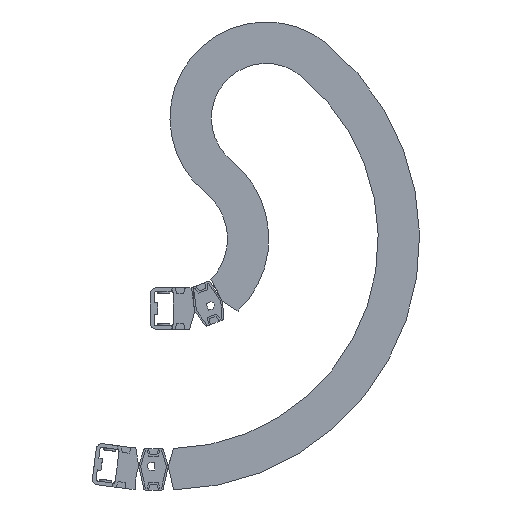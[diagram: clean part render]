
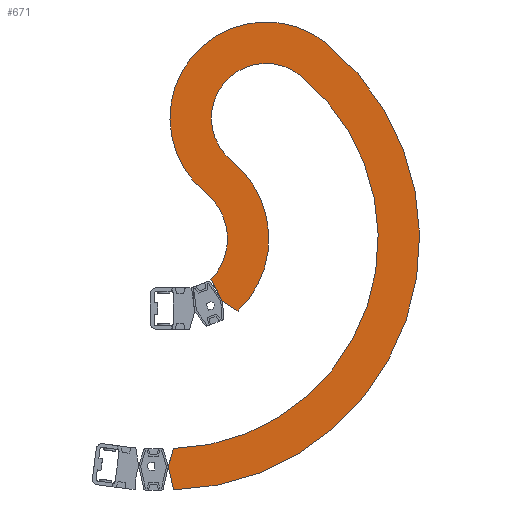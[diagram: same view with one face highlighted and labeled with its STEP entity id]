
A CAD part, front view. The second image highlights one B-rep face of the part: STEP entity #671.
In plain terms, the highlighted planar face has unit normal (0, -1, 0).
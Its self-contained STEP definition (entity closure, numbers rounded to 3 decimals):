
#671 = ADVANCED_FACE( '', ( #1478 ), #1479, .F. );
#1478 = FACE_OUTER_BOUND( '', #2448, .T. );
#1479 = PLANE( '', #2449 );
#2448 = EDGE_LOOP( '', ( #4296, #4297, #4298, #4299, #4300, #4301, #4302, #4303, #4304, #4305 ) );
#2449 = AXIS2_PLACEMENT_3D( '', #4306, #4307, #4308 );
#4296 = ORIENTED_EDGE( '', *, *, #6743, .F. );
#4297 = ORIENTED_EDGE( '', *, *, #6684, .F. );
#4298 = ORIENTED_EDGE( '', *, *, #6744, .F. );
#4299 = ORIENTED_EDGE( '', *, *, #6745, .T. );
#4300 = ORIENTED_EDGE( '', *, *, #6746, .F. );
#4301 = ORIENTED_EDGE( '', *, *, #6747, .F. );
#4302 = ORIENTED_EDGE( '', *, *, #6462, .F. );
#4303 = ORIENTED_EDGE( '', *, *, #6748, .T. );
#4304 = ORIENTED_EDGE( '', *, *, #6749, .T. );
#4305 = ORIENTED_EDGE( '', *, *, #6638, .F. );
#4306 = CARTESIAN_POINT( '', ( 0., -25.5, 0. ) );
#4307 = DIRECTION( '', ( 0., 1., 0. ) );
#4308 = DIRECTION( '', ( 0., 0., 1. ) );
#6462 = EDGE_CURVE( '', #7973, #7974, #7975, .T. );
#6638 = EDGE_CURVE( '', #8248, #8250, #8251, .T. );
#6684 = EDGE_CURVE( '', #8318, #8319, #8320, .T. );
#6743 = EDGE_CURVE( '', #8319, #8248, #8405, .T. );
#6744 = EDGE_CURVE( '', #8406, #8318, #8407, .T. );
#6745 = EDGE_CURVE( '', #8406, #8408, #8409, .T. );
#6746 = EDGE_CURVE( '', #8410, #8408, #8411, .T. );
#6747 = EDGE_CURVE( '', #7974, #8410, #8412, .T. );
#6748 = EDGE_CURVE( '', #7973, #8413, #8414, .T. );
#6749 = EDGE_CURVE( '', #8413, #8250, #8415, .T. );
#7973 = VERTEX_POINT( '', #10060 );
#7974 = VERTEX_POINT( '', #10061 );
#7975 = CIRCLE( '', #10062, 68. );
#8248 = VERTEX_POINT( '', #10450 );
#8250 = VERTEX_POINT( '', #10453 );
#8251 = LINE( '', #10454, #10455 );
#8318 = VERTEX_POINT( '', #10553 );
#8319 = VERTEX_POINT( '', #10554 );
#8320 = CIRCLE( '', #10555, 170. );
#8405 = LINE( '', #10676, #10677 );
#8406 = VERTEX_POINT( '', #10678 );
#8407 = CIRCLE( '', #10679, 65. );
#8408 = VERTEX_POINT( '', #10680 );
#8409 = CIRCLE( '', #10681, 40. );
#8410 = VERTEX_POINT( '', #10682 );
#8411 = LINE( '', #10683, #10684 );
#8412 = LINE( '', #10685, #10686 );
#8413 = VERTEX_POINT( '', #10687 );
#8414 = CIRCLE( '', #10688, 37. );
#8415 = CIRCLE( '', #10689, 142. );
#10060 = CARTESIAN_POINT( '', ( 42.821, -25.5, 52.824 ) );
#10061 = CARTESIAN_POINT( '', ( 47.167, -25.5, -48.982 ) );
#10062 = AXIS2_PLACEMENT_3D( '', #11960, #11961, #11962 );
#10450 = CARTESIAN_POINT( '', ( 0., -25.5, -154. ) );
#10453 = CARTESIAN_POINT( '', ( 3.591, -25.5, -141.955 ) );
#10454 = CARTESIAN_POINT( '', ( 0., -25.5, -154. ) );
#10455 = VECTOR( '', #12178, 1000. );
#10553 = CARTESIAN_POINT( '', ( 107.051, -25.5, 132.061 ) );
#10554 = CARTESIAN_POINT( '', ( 3.57, -25.5, -169.963 ) );
#10555 = AXIS2_PLACEMENT_3D( '', #12216, #12217, #12218 );
#10676 = CARTESIAN_POINT( '', ( 3.57, -25.5, -169.963 ) );
#10677 = VECTOR( '', #12285, 1000. );
#10678 = CARTESIAN_POINT( '', ( 25.189, -25.5, 31.073 ) );
#10679 = AXIS2_PLACEMENT_3D( '', #12286, #12287, #12288 );
#10680 = CARTESIAN_POINT( '', ( 28.827, -25.5, -27.731 ) );
#10681 = AXIS2_PLACEMENT_3D( '', #12289, #12290, #12291 );
#10682 = CARTESIAN_POINT( '', ( 36.684, -25.5, -42.311 ) );
#10683 = CARTESIAN_POINT( '', ( 36.684, -25.5, -42.311 ) );
#10684 = VECTOR( '', #12292, 1000. );
#10685 = CARTESIAN_POINT( '', ( 47.167, -25.5, -48.982 ) );
#10686 = VECTOR( '', #12293, 1000. );
#10687 = CARTESIAN_POINT( '', ( 89.419, -25.5, 110.309 ) );
#10688 = AXIS2_PLACEMENT_3D( '', #12294, #12295, #12296 );
#10689 = AXIS2_PLACEMENT_3D( '', #12297, #12298, #12299 );
#11960 = CARTESIAN_POINT( '', ( 0., -25.5, 0. ) );
#11961 = DIRECTION( '', ( 0., 1., 0. ) );
#11962 = DIRECTION( '', ( 1., 0., 0. ) );
#12178 = DIRECTION( '', ( 0.286, 0., 0.958 ) );
#12216 = CARTESIAN_POINT( '', ( 0., -25.5, 0. ) );
#12217 = DIRECTION( '', ( 0., 1., 0. ) );
#12218 = DIRECTION( '', ( 1., 0., 0. ) );
#12285 = DIRECTION( '', ( -0.218, 0., 0.976 ) );
#12286 = CARTESIAN_POINT( '', ( 66.12, -25.5, 81.567 ) );
#12287 = DIRECTION( '', ( 0., 1., 0. ) );
#12288 = DIRECTION( '', ( 1., 0., 0. ) );
#12289 = CARTESIAN_POINT( '', ( 0., -25.5, 0. ) );
#12290 = DIRECTION( '', ( 0., 1., 0. ) );
#12291 = DIRECTION( '', ( 1., 0., 0. ) );
#12292 = DIRECTION( '', ( -0.474, 0., 0.88 ) );
#12293 = DIRECTION( '', ( -0.844, 0., 0.537 ) );
#12294 = CARTESIAN_POINT( '', ( 66.12, -25.5, 81.567 ) );
#12295 = DIRECTION( '', ( 0., 1., 0. ) );
#12296 = DIRECTION( '', ( 1., 0., 0. ) );
#12297 = CARTESIAN_POINT( '', ( 0., -25.5, 0. ) );
#12298 = DIRECTION( '', ( 0., 1., 0. ) );
#12299 = DIRECTION( '', ( 1., 0., 0. ) );
